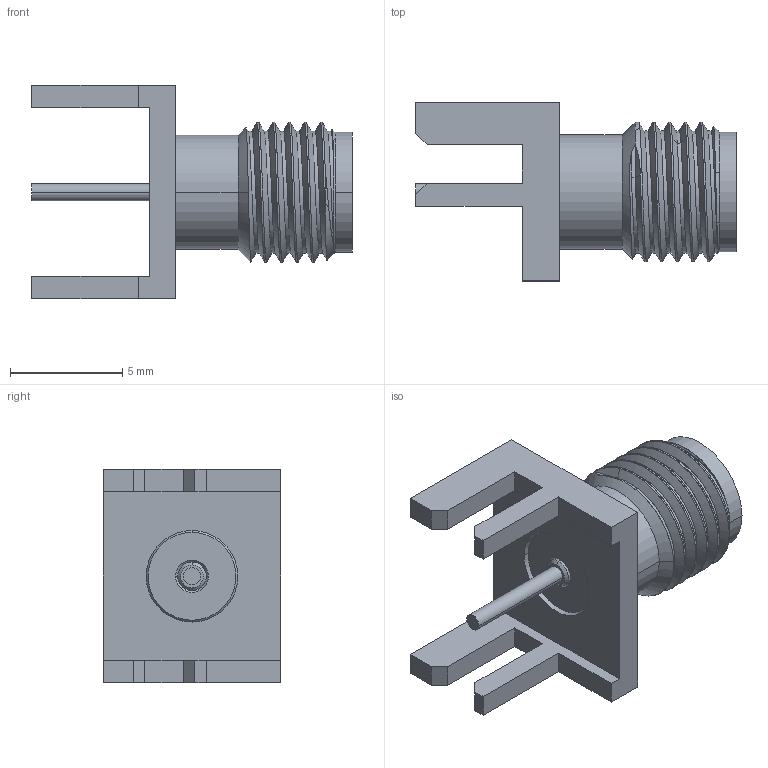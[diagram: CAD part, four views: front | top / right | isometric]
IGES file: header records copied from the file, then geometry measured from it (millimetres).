
Start section:  PTC IGES file: 901-10003_REV-A.igs
Global section: file name: 901-10003_REV-A.igs; native system: Pro/ENGINEER by Parametric Technology Corporation; preprocessor: 2008010; author: clementlazer; organization: Unknown; date: 20081202.165135; units: inch
Bounding box: 14.27 x 7.92 x 9.53 mm (x, y, z)
Surface area: 679.3 mm2 (no closed solid volume)
Topology: 0 solids, 0 shells, 94 faces, 476 edges, 474 vertices
Faces by surface type: bspline 49, revolution 45
